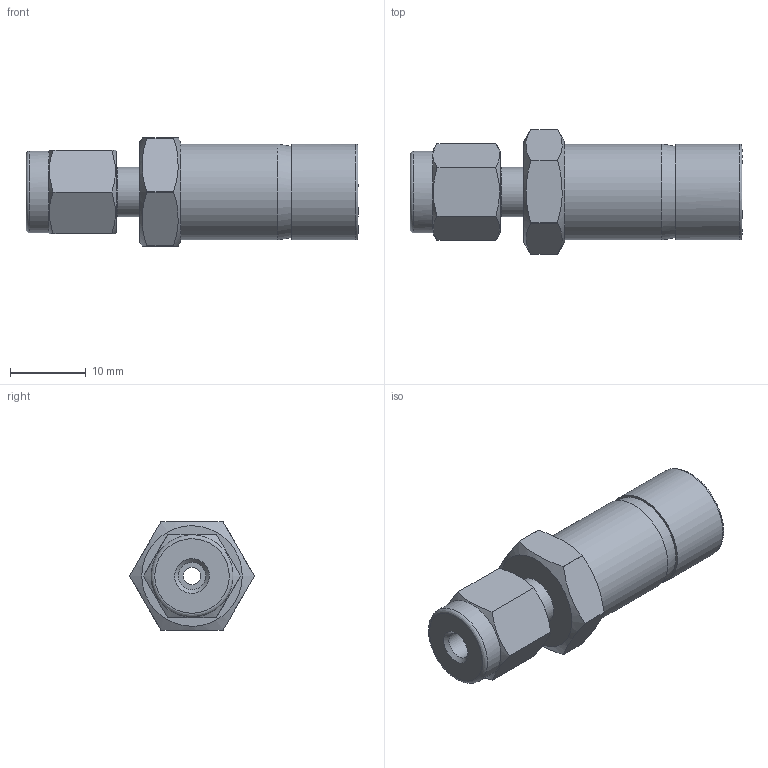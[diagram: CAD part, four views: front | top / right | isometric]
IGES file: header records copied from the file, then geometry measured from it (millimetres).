
Global section: file name: SR-2-8; native system: Autodesk Inventor 2016; preprocessor: unknown; author: DESIGNPC2; date: 20151111.155730; units: millimetre
Bounding box: 43.96 x 16.5 x 14.3 mm (x, y, z)
Volume: 3375.8 mm3; surface area: 3041.1 mm2
Topology: 1 solids, 1 shells, 42 faces, 119 edges, 84 vertices
Faces by surface type: bspline 42
